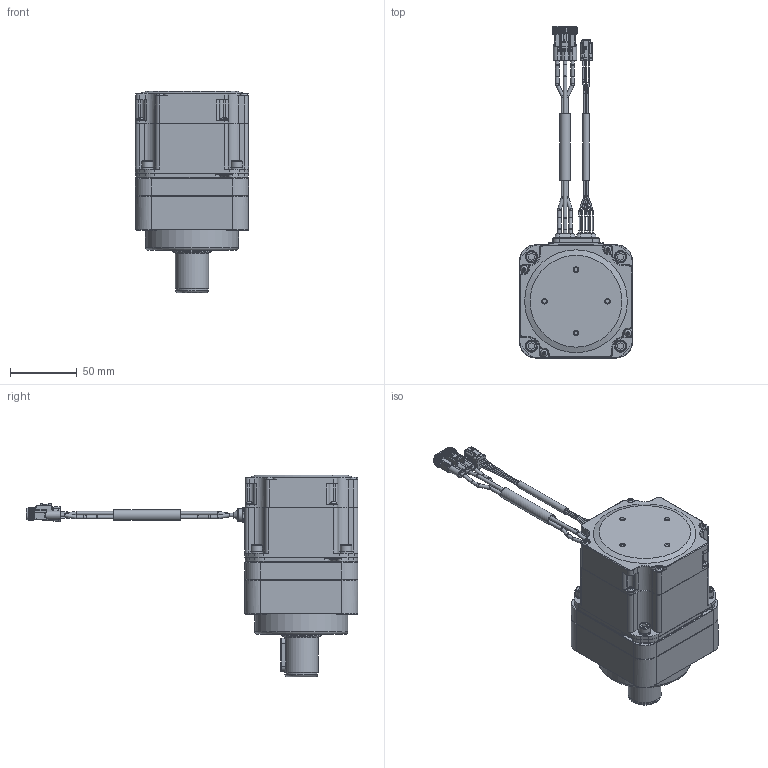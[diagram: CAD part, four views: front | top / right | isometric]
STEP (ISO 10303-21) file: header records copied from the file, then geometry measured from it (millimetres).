
FILE_DESCRIPTION(/* description */ (''),/* implementation_level */ '2;1');
FILE_NAME(/* name */ 'TKE-134826_01_Motor_withGear.stp',/* time_stamp */ '2021-12-16T17:06:00+09:00',/* author */ (''),/* organization */ (''),/* preprocessor_version */ 'ST-DEVELOPER v16.7',/* originating_system */ 'SIEMENS PLM Software NX 12.0',/* authorisation */ '');
FILE_SCHEMA (('AUTOMOTIVE_DESIGN { 1 0 10303 214 3 1 1 1 }'));
Products named in the file (1): TKE-134826_01_Motor_withGear
Bounding box: 85 x 249.5 x 151.5 mm (x, y, z)
Volume: 766159.7 mm3; surface area: 89950.5 mm2
Topology: 3 solids, 32 shells, 2101 faces, 5094 edges, 3098 vertices
Faces by surface type: cylinder 882, plane 658, torus 270, bspline 136, cone 103, sphere 52
Full cylindrical faces by diameter (mm): 1.02 x50, 1.7 x4, 1.9 x4, 2.63 x12, 2.7 x23, 2.8 x3, 3 x12, 3.025 x4, 3.2 x16, 3.5 x8, 4 x1, 4.2 x4, 4.5 x2, 5 x5, 5.25 x12, 5.3 x4, 5.45 x4, 6 x8, 6.3 x8, 6.8 x1, 7 x1, 8 x1, 8.5 x4, 9.2 x4, 22 x1, 23.795 x1, 24.994 x1, 29.8 x1, 45 x1, 46 x1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
Entity records: 67921 total; most frequent: CARTESIAN_POINT 17362, DIRECTION 9670, ORIENTED_EDGE 9110, EDGE_CURVE 4555, AXIS2_PLACEMENT_3D 3914, VERTEX_POINT 2981, EDGE_LOOP 2606, ADVANCED_FACE 2101
